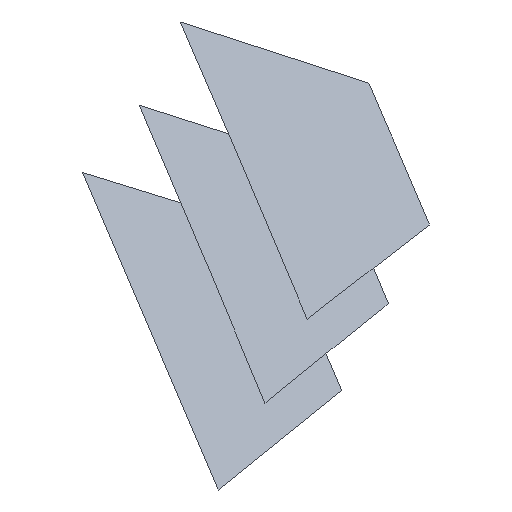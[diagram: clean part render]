
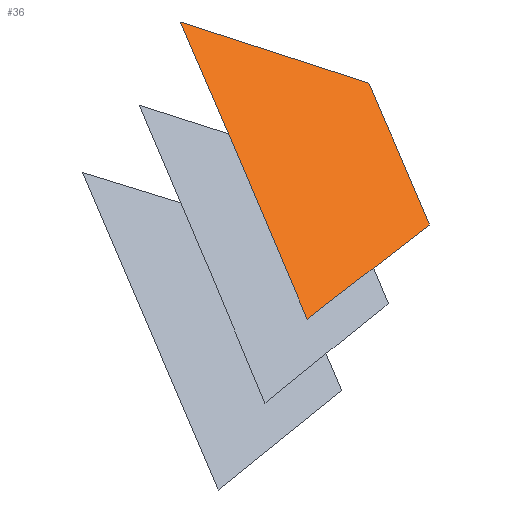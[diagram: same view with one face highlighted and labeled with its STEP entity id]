
A CAD part, front view. The second image highlights one B-rep face of the part: STEP entity #36.
In plain terms, the highlighted free-form (B-spline) face has degree [1, 1] with [2, 2] control points.
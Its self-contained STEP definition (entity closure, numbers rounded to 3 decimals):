
#36 = ADVANCED_FACE('',(#37),#50,.T.);
#37 = FACE_BOUND('',#38,.T.);
#38 = EDGE_LOOP('',(#39,#60,#74,#88,#102,#116,#130,#144,#158,#172));
#39 = ORIENTED_EDGE('',*,*,#40,.T.);
#40 = EDGE_CURVE('',#41,#43,#45,.T.);
#41 = VERTEX_POINT('',#42);
#42 = CARTESIAN_POINT('',(1087.726,-1784.044,
    1136.713));
#43 = VERTEX_POINT('',#44);
#44 = CARTESIAN_POINT('',(1089.026,-1785.793,
    1133.69));
#45 = SURFACE_CURVE('',#46,(#49),.PCURVE_S1.);
#46 = B_SPLINE_CURVE_WITH_KNOTS('',1,(#47,#48),.UNSPECIFIED.,.F.,.F.,(2,
    2),(0.,3.726),.PIECEWISE_BEZIER_KNOTS.);
#47 = CARTESIAN_POINT('',(1087.726,-1784.044,
    1136.713));
#48 = CARTESIAN_POINT('',(1089.026,-1785.793,
    1133.69));
#49 = PCURVE('',#50,#55);
#50 = B_SPLINE_SURFACE_WITH_KNOTS('',1,1,(
    (#51,#52)
    ,(#53,#54
    )),.UNSPECIFIED.,.F.,.F.,.F.,(2,2),(2,2),(-2.917,
    4.409),(-2.979,3.308),
  .PIECEWISE_BEZIER_KNOTS.);
#51 = CARTESIAN_POINT('',(1094.499,-1784.043,
    1133.019));
#52 = CARTESIAN_POINT('',(1090.604,-1787.938,
    1129.989));
#53 = CARTESIAN_POINT('',(1089.223,-1782.547,
    1137.877));
#54 = CARTESIAN_POINT('',(1085.329,-1786.442,
    1134.848));
#55 = DEFINITIONAL_REPRESENTATION('',(#56),#59);
#56 = B_SPLINE_CURVE_WITH_KNOTS('',1,(#57,#58),.UNSPECIFIED.,.F.,.F.,(2,
    2),(0.,3.726),.PIECEWISE_BEZIER_KNOTS.);
#57 = CARTESIAN_POINT('',(4.409,-0.561));
#58 = CARTESIAN_POINT('',(1.112,1.173));
#59 = ( GEOMETRIC_REPRESENTATION_CONTEXT(2) 
PARAMETRIC_REPRESENTATION_CONTEXT() REPRESENTATION_CONTEXT('2D SPACE',''
  ) );
#60 = ORIENTED_EDGE('',*,*,#61,.T.);
#61 = EDGE_CURVE('',#43,#62,#64,.T.);
#62 = VERTEX_POINT('',#63);
#63 = CARTESIAN_POINT('',(1089.036,-1785.806,
    1133.667));
#64 = SURFACE_CURVE('',#65,(#68),.PCURVE_S1.);
#65 = B_SPLINE_CURVE_WITH_KNOTS('',1,(#66,#67),.UNSPECIFIED.,.F.,.F.,(2,
    2),(0.,0.029),.PIECEWISE_BEZIER_KNOTS.);
#66 = CARTESIAN_POINT('',(1089.026,-1785.793,
    1133.69));
#67 = CARTESIAN_POINT('',(1089.036,-1785.806,
    1133.667));
#68 = PCURVE('',#50,#69);
#69 = DEFINITIONAL_REPRESENTATION('',(#70),#73);
#70 = B_SPLINE_CURVE_WITH_KNOTS('',1,(#71,#72),.UNSPECIFIED.,.F.,.F.,(2,
    2),(0.,0.029),.PIECEWISE_BEZIER_KNOTS.);
#71 = CARTESIAN_POINT('',(1.112,1.173));
#72 = CARTESIAN_POINT('',(1.086,1.186));
#73 = ( GEOMETRIC_REPRESENTATION_CONTEXT(2) 
PARAMETRIC_REPRESENTATION_CONTEXT() REPRESENTATION_CONTEXT('2D SPACE',''
  ) );
#74 = ORIENTED_EDGE('',*,*,#75,.T.);
#75 = EDGE_CURVE('',#62,#76,#78,.T.);
#76 = VERTEX_POINT('',#77);
#77 = CARTESIAN_POINT('',(1090.589,-1787.934,
    1130.003));
#78 = SURFACE_CURVE('',#79,(#82),.PCURVE_S1.);
#79 = B_SPLINE_CURVE_WITH_KNOTS('',1,(#80,#81),.UNSPECIFIED.,.F.,.F.,(2,
    2),(0.,4.513),.PIECEWISE_BEZIER_KNOTS.);
#80 = CARTESIAN_POINT('',(1089.036,-1785.806,
    1133.667));
#81 = CARTESIAN_POINT('',(1090.589,-1787.934,
    1130.003));
#82 = PCURVE('',#50,#83);
#83 = DEFINITIONAL_REPRESENTATION('',(#84),#87);
#84 = B_SPLINE_CURVE_WITH_KNOTS('',1,(#85,#86),.UNSPECIFIED.,.F.,.F.,(2,
    2),(0.,4.513),.PIECEWISE_BEZIER_KNOTS.);
#85 = CARTESIAN_POINT('',(1.086,1.186));
#86 = CARTESIAN_POINT('',(-2.897,3.308));
#87 = ( GEOMETRIC_REPRESENTATION_CONTEXT(2) 
PARAMETRIC_REPRESENTATION_CONTEXT() REPRESENTATION_CONTEXT('2D SPACE',''
  ) );
#88 = ORIENTED_EDGE('',*,*,#89,.T.);
#89 = EDGE_CURVE('',#76,#90,#92,.T.);
#90 = VERTEX_POINT('',#91);
#91 = CARTESIAN_POINT('',(1091.028,-1787.495,
    1130.345));
#92 = SURFACE_CURVE('',#93,(#96),.PCURVE_S1.);
#93 = B_SPLINE_CURVE_WITH_KNOTS('',1,(#94,#95),.UNSPECIFIED.,.F.,.F.,(2,
    2),(0.,0.708),.PIECEWISE_BEZIER_KNOTS.);
#94 = CARTESIAN_POINT('',(1090.589,-1787.934,
    1130.003));
#95 = CARTESIAN_POINT('',(1091.028,-1787.495,
    1130.345));
#96 = PCURVE('',#50,#97);
#97 = DEFINITIONAL_REPRESENTATION('',(#98),#101);
#98 = B_SPLINE_CURVE_WITH_KNOTS('',1,(#99,#100),.UNSPECIFIED.,.F.,.F.,(2
    ,2),(0.,0.708),.PIECEWISE_BEZIER_KNOTS.);
#99 = CARTESIAN_POINT('',(-2.897,3.308));
#100 = CARTESIAN_POINT('',(-2.896,2.599));
#101 = ( GEOMETRIC_REPRESENTATION_CONTEXT(2) 
PARAMETRIC_REPRESENTATION_CONTEXT() REPRESENTATION_CONTEXT('2D SPACE',''
  ) );
#102 = ORIENTED_EDGE('',*,*,#103,.T.);
#103 = EDGE_CURVE('',#90,#104,#106,.T.);
#104 = VERTEX_POINT('',#105);
#105 = CARTESIAN_POINT('',(1092.282,-1786.254,
    1131.303));
#106 = SURFACE_CURVE('',#107,(#110),.PCURVE_S1.);
#107 = B_SPLINE_CURVE_WITH_KNOTS('',1,(#108,#109),.UNSPECIFIED.,.F.,.F.,
  (2,2),(0.,2.008),.PIECEWISE_BEZIER_KNOTS.);
#108 = CARTESIAN_POINT('',(1091.028,-1787.495,
    1130.345));
#109 = CARTESIAN_POINT('',(1092.282,-1786.254,
    1131.303));
#110 = PCURVE('',#50,#111);
#111 = DEFINITIONAL_REPRESENTATION('',(#112),#115);
#112 = B_SPLINE_CURVE_WITH_KNOTS('',1,(#113,#114),.UNSPECIFIED.,.F.,.F.,
  (2,2),(0.,2.008),.PIECEWISE_BEZIER_KNOTS.);
#113 = CARTESIAN_POINT('',(-2.896,2.599));
#114 = CARTESIAN_POINT('',(-2.91,0.591));
#115 = ( GEOMETRIC_REPRESENTATION_CONTEXT(2) 
PARAMETRIC_REPRESENTATION_CONTEXT() REPRESENTATION_CONTEXT('2D SPACE',''
  ) );
#116 = ORIENTED_EDGE('',*,*,#117,.T.);
#117 = EDGE_CURVE('',#104,#118,#120,.T.);
#118 = VERTEX_POINT('',#119);
#119 = CARTESIAN_POINT('',(1093.352,-1785.19,
    1132.127));
#120 = SURFACE_CURVE('',#121,(#124),.PCURVE_S1.);
#121 = B_SPLINE_CURVE_WITH_KNOTS('',1,(#122,#123),.UNSPECIFIED.,.F.,.F.,
  (2,2),(0.,1.719),.PIECEWISE_BEZIER_KNOTS.);
#122 = CARTESIAN_POINT('',(1092.282,-1786.254,
    1131.303));
#123 = CARTESIAN_POINT('',(1093.352,-1785.19,
    1132.127));
#124 = PCURVE('',#50,#125);
#125 = DEFINITIONAL_REPRESENTATION('',(#126),#129);
#126 = B_SPLINE_CURVE_WITH_KNOTS('',1,(#127,#128),.UNSPECIFIED.,.F.,.F.,
  (2,2),(0.,1.719),.PIECEWISE_BEZIER_KNOTS.);
#127 = CARTESIAN_POINT('',(-2.91,0.591));
#128 = CARTESIAN_POINT('',(-2.917,-1.128));
#129 = ( GEOMETRIC_REPRESENTATION_CONTEXT(2) 
PARAMETRIC_REPRESENTATION_CONTEXT() REPRESENTATION_CONTEXT('2D SPACE',''
  ) );
#130 = ORIENTED_EDGE('',*,*,#131,.T.);
#131 = EDGE_CURVE('',#118,#132,#134,.T.);
#132 = VERTEX_POINT('',#133);
#133 = CARTESIAN_POINT('',(1092.51,-1784.037,
    1134.113));
#134 = SURFACE_CURVE('',#135,(#138),.PCURVE_S1.);
#135 = B_SPLINE_CURVE_WITH_KNOTS('',1,(#136,#137),.UNSPECIFIED.,.F.,.F.,
  (2,2),(0.,2.446),.PIECEWISE_BEZIER_KNOTS.);
#136 = CARTESIAN_POINT('',(1093.352,-1785.19,
    1132.127));
#137 = CARTESIAN_POINT('',(1092.51,-1784.037,
    1134.113));
#138 = PCURVE('',#50,#139);
#139 = DEFINITIONAL_REPRESENTATION('',(#140),#143);
#140 = B_SPLINE_CURVE_WITH_KNOTS('',1,(#141,#142),.UNSPECIFIED.,.F.,.F.,
  (2,2),(0.,2.446),.PIECEWISE_BEZIER_KNOTS.);
#141 = CARTESIAN_POINT('',(-2.917,-1.128));
#142 = CARTESIAN_POINT('',(-0.759,-2.278));
#143 = ( GEOMETRIC_REPRESENTATION_CONTEXT(2) 
PARAMETRIC_REPRESENTATION_CONTEXT() REPRESENTATION_CONTEXT('2D SPACE',''
  ) );
#144 = ORIENTED_EDGE('',*,*,#145,.T.);
#145 = EDGE_CURVE('',#132,#146,#148,.T.);
#146 = VERTEX_POINT('',#147);
#147 = CARTESIAN_POINT('',(1092.493,-1784.014,
    1134.153));
#148 = SURFACE_CURVE('',#149,(#152),.PCURVE_S1.);
#149 = B_SPLINE_CURVE_WITH_KNOTS('',1,(#150,#151),.UNSPECIFIED.,.F.,.F.,
  (2,2),(0.,0.049),.PIECEWISE_BEZIER_KNOTS.);
#150 = CARTESIAN_POINT('',(1092.51,-1784.037,
    1134.113));
#151 = CARTESIAN_POINT('',(1092.493,-1784.014,
    1134.153));
#152 = PCURVE('',#50,#153);
#153 = DEFINITIONAL_REPRESENTATION('',(#154),#157);
#154 = B_SPLINE_CURVE_WITH_KNOTS('',1,(#155,#156),.UNSPECIFIED.,.F.,.F.,
  (2,2),(0.,0.049),.PIECEWISE_BEZIER_KNOTS.);
#155 = CARTESIAN_POINT('',(-0.759,-2.278));
#156 = CARTESIAN_POINT('',(-0.715,-2.301));
#157 = ( GEOMETRIC_REPRESENTATION_CONTEXT(2) 
PARAMETRIC_REPRESENTATION_CONTEXT() REPRESENTATION_CONTEXT('2D SPACE',''
  ) );
#158 = ORIENTED_EDGE('',*,*,#159,.T.);
#159 = EDGE_CURVE('',#146,#160,#162,.T.);
#160 = VERTEX_POINT('',#161);
#161 = CARTESIAN_POINT('',(1091.985,-1783.33,
    1135.334));
#162 = SURFACE_CURVE('',#163,(#166),.PCURVE_S1.);
#163 = B_SPLINE_CURVE_WITH_KNOTS('',1,(#164,#165),.UNSPECIFIED.,.F.,.F.,
  (2,2),(0.,1.457),.PIECEWISE_BEZIER_KNOTS.);
#164 = CARTESIAN_POINT('',(1092.493,-1784.014,
    1134.153));
#165 = CARTESIAN_POINT('',(1091.985,-1783.33,
    1135.334));
#166 = PCURVE('',#50,#167);
#167 = DEFINITIONAL_REPRESENTATION('',(#168),#171);
#168 = B_SPLINE_CURVE_WITH_KNOTS('',1,(#169,#170),.UNSPECIFIED.,.F.,.F.,
  (2,2),(0.,1.457),.PIECEWISE_BEZIER_KNOTS.);
#169 = CARTESIAN_POINT('',(-0.715,-2.301));
#170 = CARTESIAN_POINT('',(0.574,-2.979));
#171 = ( GEOMETRIC_REPRESENTATION_CONTEXT(2) 
PARAMETRIC_REPRESENTATION_CONTEXT() REPRESENTATION_CONTEXT('2D SPACE',''
  ) );
#172 = ORIENTED_EDGE('',*,*,#173,.T.);
#173 = EDGE_CURVE('',#160,#41,#174,.T.);
#174 = SURFACE_CURVE('',#175,(#178),.PCURVE_S1.);
#175 = B_SPLINE_CURVE_WITH_KNOTS('',1,(#176,#177),.UNSPECIFIED.,.F.,.F.,
  (2,2),(0.,4.533),.PIECEWISE_BEZIER_KNOTS.);
#176 = CARTESIAN_POINT('',(1091.985,-1783.33,
    1135.334));
#177 = CARTESIAN_POINT('',(1087.726,-1784.044,
    1136.713));
#178 = PCURVE('',#50,#179);
#179 = DEFINITIONAL_REPRESENTATION('',(#180),#183);
#180 = B_SPLINE_CURVE_WITH_KNOTS('',1,(#181,#182),.UNSPECIFIED.,.F.,.F.,
  (2,2),(0.,4.533),.PIECEWISE_BEZIER_KNOTS.);
#181 = CARTESIAN_POINT('',(0.574,-2.979));
#182 = CARTESIAN_POINT('',(4.409,-0.561));
#183 = ( GEOMETRIC_REPRESENTATION_CONTEXT(2) 
PARAMETRIC_REPRESENTATION_CONTEXT() REPRESENTATION_CONTEXT('2D SPACE',''
  ) );
